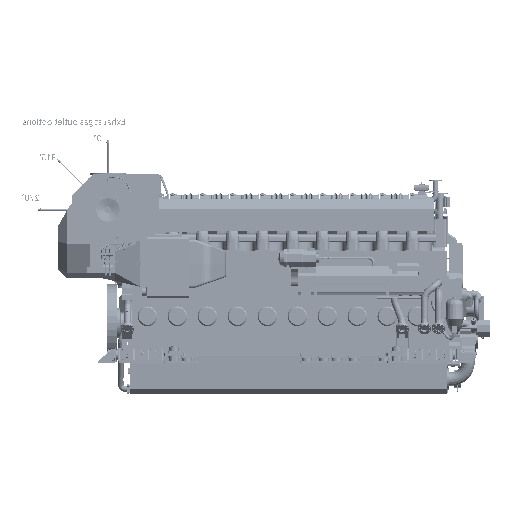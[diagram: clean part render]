
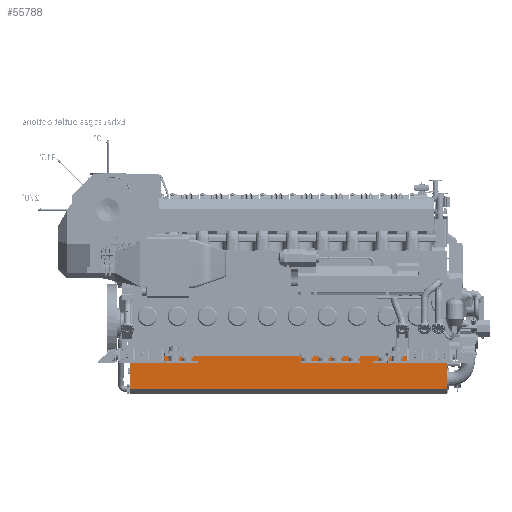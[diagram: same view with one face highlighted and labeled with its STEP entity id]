
A CAD part, front view. The second image highlights one B-rep face of the part: STEP entity #55788.
In plain terms, the highlighted planar face has unit normal (0, -0.999, -0.052).
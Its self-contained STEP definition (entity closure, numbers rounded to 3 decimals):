
#44043=PLANE('',#358357);
#55788=ADVANCED_FACE('',(#77381),#44043,.F.);
#77381=FACE_OUTER_BOUND('',#93996,.T.);
#93996=EDGE_LOOP('',(#180638,#180639,#180640,#180641));
#121548=LINE('',#506970,#149707);
#121562=LINE('',#507007,#149721);
#121572=LINE('',#507030,#149731);
#121573=LINE('',#507032,#149732);
#149707=VECTOR('',#393137,1.);
#149721=VECTOR('',#393161,1.);
#149731=VECTOR('',#393181,1.);
#149732=VECTOR('',#393184,1.);
#180638=ORIENTED_EDGE('',*,*,#306444,.T.);
#180639=ORIENTED_EDGE('',*,*,#306457,.F.);
#180640=ORIENTED_EDGE('',*,*,#306426,.F.);
#180641=ORIENTED_EDGE('',*,*,#306456,.T.);
#273350=VERTEX_POINT('',#506969);
#273351=VERTEX_POINT('',#506971);
#273368=VERTEX_POINT('',#507006);
#273369=VERTEX_POINT('',#507008);
#306426=EDGE_CURVE('',#273350,#273351,#121548,.T.);
#306444=EDGE_CURVE('',#273369,#273368,#121562,.T.);
#306456=EDGE_CURVE('',#273350,#273369,#121572,.T.);
#306457=EDGE_CURVE('',#273351,#273368,#121573,.T.);
#358357=AXIS2_PLACEMENT_3D('',#507033,#393185,#393186);
#393137=DIRECTION('',(0.,-0.052,0.999));
#393161=DIRECTION('',(0.,-0.052,0.999));
#393181=DIRECTION('',(1.,0.,0.));
#393184=DIRECTION('',(1.,0.,0.));
#393185=DIRECTION('',(0.,0.999,0.052));
#393186=DIRECTION('',(0.,-0.052,0.999));
#506969=CARTESIAN_POINT('',(-5180.,-412.339,-1079.568));
#506970=CARTESIAN_POINT('',(-5180.,-412.339,-1079.568));
#506971=CARTESIAN_POINT('',(-5180.,-440.25,-545.));
#507006=CARTESIAN_POINT('',(0.,-440.25,-545.));
#507007=CARTESIAN_POINT('',(0.,-412.339,-1079.568));
#507008=CARTESIAN_POINT('',(0.,-412.339,-1079.568));
#507030=CARTESIAN_POINT('',(-5180.,-412.339,-1079.568));
#507032=CARTESIAN_POINT('',(-5180.,-440.25,-545.));
#507033=CARTESIAN_POINT('',(-5180.,-412.339,-1079.568));
